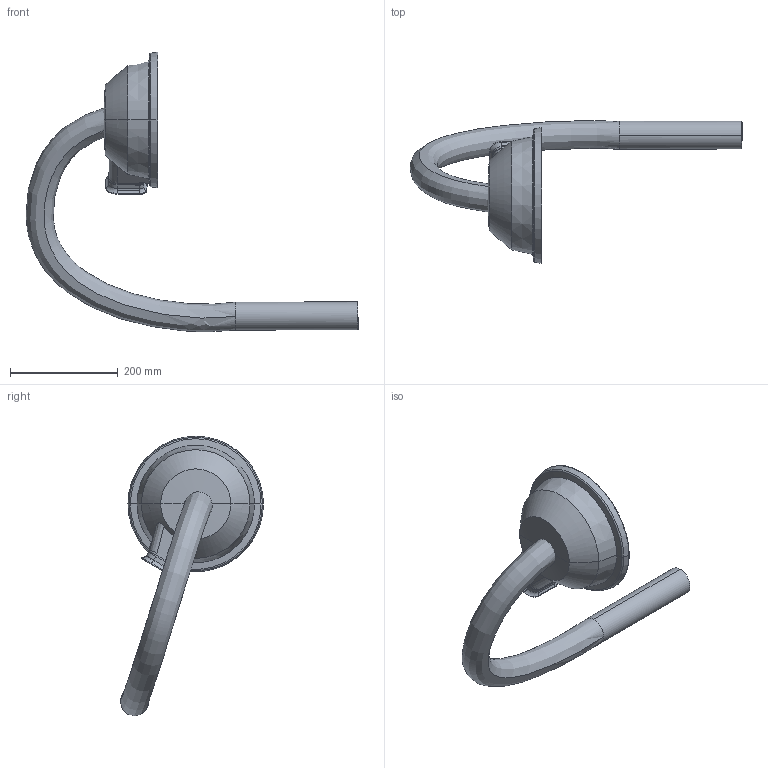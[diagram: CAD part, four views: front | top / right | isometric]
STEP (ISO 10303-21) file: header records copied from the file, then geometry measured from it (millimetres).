
FILE_DESCRIPTION (( 'STEP AP214' ), '1' );
FILE_NAME ('IRB6720-LID-MH_140kg-320_OC_00_LINK03b_CABLE.step', '2026-06-10T12:00:13', ( '' ), ( '' ), 'SwSTEP 2.0', 'SolidWorks 2024', '' );
FILE_SCHEMA (( 'AUTOMOTIVE_DESIGN' ));
Length unit declared in the file: millimetre
Products named in the file (1): IRB6720-LID-MH_140kg-320_OC_00_LINK03b_CABLE
Bounding box: 615.31 x 265.07 x 518.24 mm (x, y, z)
Volume: 5160461 mm3; surface area: 300072.3 mm2
Topology: 1 solids, 1 shells, 107 faces, 271 edges, 166 vertices
Faces by surface type: bspline 33, cylinder 26, plane 17, torus 15, cone 14, sphere 2
Entity records: 8006 total; most frequent: CARTESIAN_POINT 5740, ORIENTED_EDGE 542, DIRECTION 381, EDGE_CURVE 271, VERTEX_POINT 166, AXIS2_PLACEMENT_3D 158, ADVANCED_FACE 107, FACE_OUTER_BOUND 107
